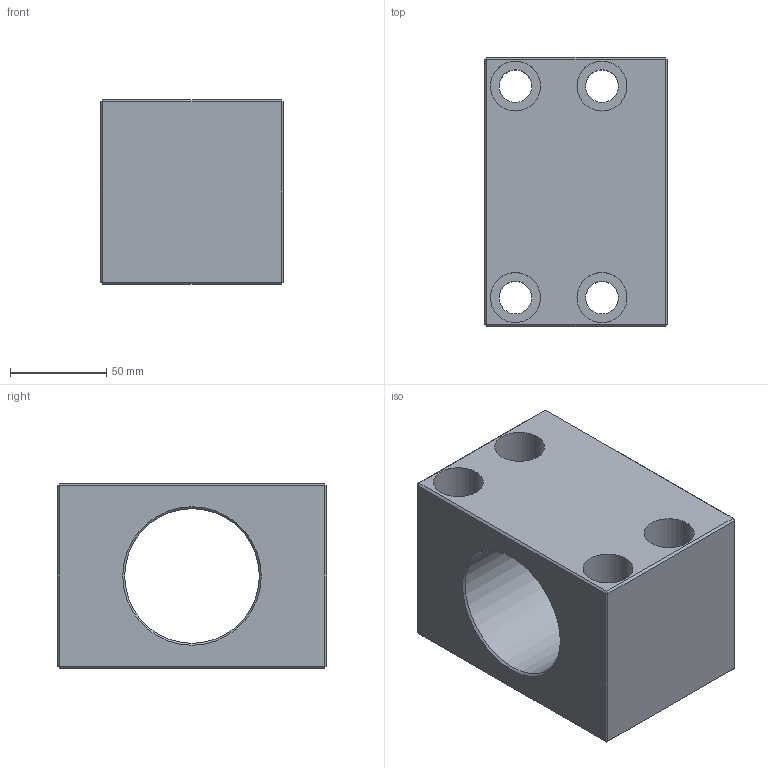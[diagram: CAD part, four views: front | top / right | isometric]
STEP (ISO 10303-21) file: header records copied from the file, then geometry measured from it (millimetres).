
FILE_DESCRIPTION(('STEP AP214'), '1');
FILE_NAME('Äåðæàòåëü ãàéêè ØÂÏ MGD40-01', '', ('UNSPECIFIED'), ('UNSPECIFIED'), 'C3D Converter', 'C3D Toolkit', '');
FILE_SCHEMA(('AUTOMOTIVE_DESIGN { 1 0 10303 214 3 1 1}'));
Length unit declared in the file: millimetre
Bounding box: 95 x 140 x 96 mm (x, y, z)
Volume: 789698.5 mm3; surface area: 109375.3 mm2
Topology: 1 solids, 1 shells, 65 faces, 135 edges, 76 vertices
Faces by surface type: plane 30, cone 18, cylinder 17
Full cylindrical faces by diameter (mm): 6.647 x8, 17 x4, 26 x4, 70 x1
Entity records: 2005 total; most frequent: DIRECTION 268, CARTESIAN_POINT 226, ORIENTED_EDGE 184, EDGE_LOOP 114, AXIS2_PLACEMENT_3D 110, EDGE_CURVE 92, VERTEX_POINT 68, COLOUR_RGB 66
